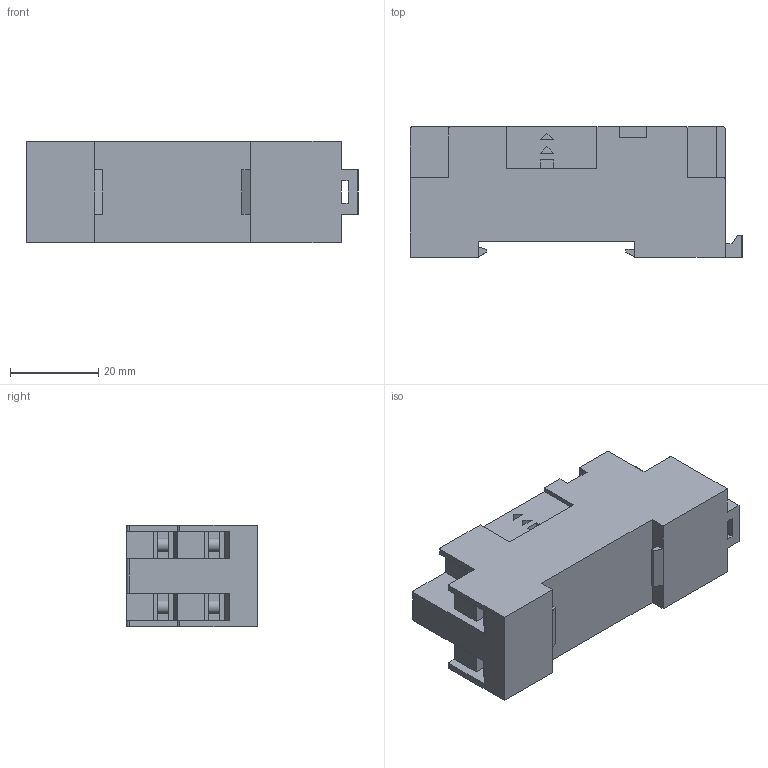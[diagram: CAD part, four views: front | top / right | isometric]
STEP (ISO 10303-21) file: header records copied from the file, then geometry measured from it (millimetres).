
FILE_DESCRIPTION(('STEP AP214'),'2;1');
FILE_NAME('94.82+morsetti_catalogo.stp','2011-05-26T13:01:32',(''),(''),'2007.1.106','THINKDESIGN','');
FILE_SCHEMA(('AUTOMOTIVE_DESIGN'));
Length unit declared in the file: millimetre
Products named in the file (1): None
Bounding box: 75.1 x 29.5 x 23 mm (x, y, z)
Surface area: 15252.3 mm2 (no closed solid volume)
Topology: 0 solids, 0 shells, 449 faces, 2328 edges, 2318 vertices
Faces by surface type: plane 394, cylinder 31, bspline 24
Full cylindrical faces by diameter (mm): 2.9 x1, 4.2 x1, 4.8 x8, 5 x8, 7.5 x1
Entity records: 23999 total; most frequent: CARTESIAN_POINT 6465, DIRECTION 3066, COMPOSITE_CURVE_SEGMENT 2304, TRIMMED_CURVE 2090, VECTOR 1964, LINE 1964, AXIS2_PLACEMENT_3D 551, STYLED_ITEM 449
